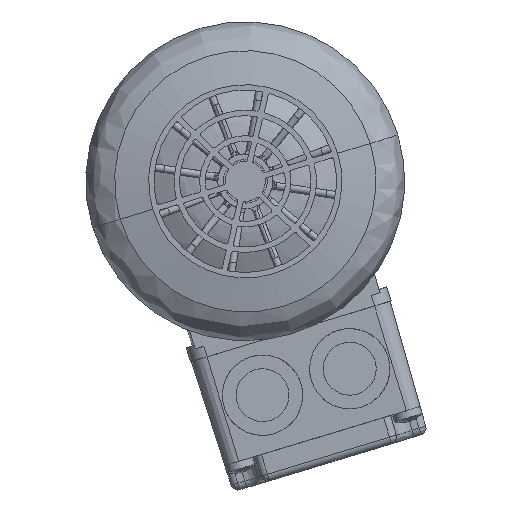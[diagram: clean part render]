
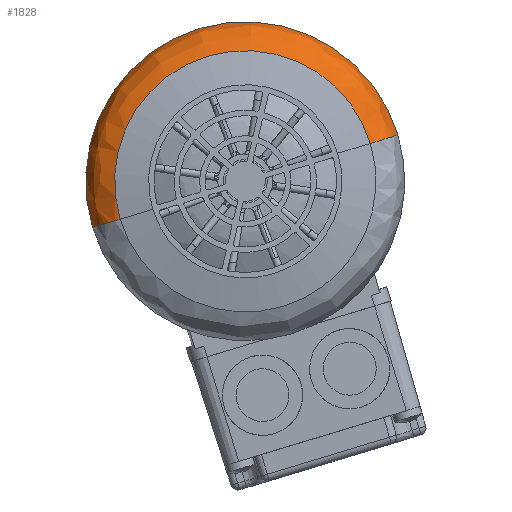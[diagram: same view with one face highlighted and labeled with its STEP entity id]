
A CAD part, left-side view. The second image highlights one B-rep face of the part: STEP entity #1828.
In plain terms, the highlighted free-form (B-spline) face has degree [3, 3] with [4, 4] control points.
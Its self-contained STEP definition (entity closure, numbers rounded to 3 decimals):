
#805 = DIRECTION ( 'NONE',  ( 0., 0., 1. ) ) ;
#1348 = DIRECTION ( 'NONE',  ( 0., 0., 1. ) ) ;
#1806 = EDGE_CURVE ( 'NONE', #85047, #12391, #55108, .T. ) ;
#1828 = ADVANCED_FACE ( 'NONE', ( #54540 ), #6331, .T. ) ;
#6331 =( BOUNDED_SURFACE ( )  B_SPLINE_SURFACE ( 3, 3, ( 
 ( #74127, #63991, #63702, #62856 ),
 ( #62255, #61968, #43122, #85817 ),
 ( #52713, #61383, #61113, #60531 ),
 ( #60238, #59966, #59678, #59564 ) ),
 .UNSPECIFIED., .F., .F., .F. ) 
 B_SPLINE_SURFACE_WITH_KNOTS ( ( 4, 4 ),
 ( 4, 4 ),
 ( 0., 1. ),
 ( 0., 1. ),
 .UNSPECIFIED. ) 
 GEOMETRIC_REPRESENTATION_ITEM ( )  RATIONAL_B_SPLINE_SURFACE ( (
 ( 1., 0.333, 0.333, 1.),
 ( 0.851, 0.284, 0.284, 0.851),
 ( 0.851, 0.284, 0.284, 0.851),
 ( 1., 0.333, 0.333, 1.) ) ) 
 REPRESENTATION_ITEM ( '' )  SURFACE ( )  );
#7912 = ORIENTED_EDGE ( 'NONE', *, *, #24219, .T. ) ;
#11491 = AXIS2_PLACEMENT_3D ( 'NONE', #66658, #66372, #66270 ) ;
#12391 = VERTEX_POINT ( 'NONE', #64770 ) ;
#13144 = AXIS2_PLACEMENT_3D ( 'NONE', #41442, #1348, #48125 ) ;
#21101 = CARTESIAN_POINT ( 'NONE',  ( -35.829, 0., -141.517 ) ) ;
#22622 = CIRCLE ( 'NONE', #80153, 43.75 ) ;
#24219 = EDGE_CURVE ( 'NONE', #83915, #80922, #66723, .T. ) ;
#24530 = ORIENTED_EDGE ( 'NONE', *, *, #1806, .F. ) ;
#37876 = ORIENTED_EDGE ( 'NONE', *, *, #84997, .T. ) ;
#40913 = CARTESIAN_POINT ( 'NONE',  ( 0., 0., -131.736 ) ) ;
#41442 = CARTESIAN_POINT ( 'NONE',  ( 0., 0., -141.517 ) ) ;
#43122 = CARTESIAN_POINT ( 'NONE',  ( 43.75, -87.5, -136.663 ) ) ;
#45235 = EDGE_LOOP ( 'NONE', ( #76960, #7912, #37876, #24530 ) ) ;
#47625 = DIRECTION ( 'NONE',  ( 1., 0., 0. ) ) ;
#48125 = DIRECTION ( 'NONE',  ( 1., 0., 0. ) ) ;
#49244 = CARTESIAN_POINT ( 'NONE',  ( 43.75, 0., -131.736 ) ) ;
#50175 = CARTESIAN_POINT ( 'NONE',  ( -43.75, 0., -131.736 ) ) ;
#52713 = CARTESIAN_POINT ( 'NONE',  ( -40.649, 0., -140.493 ) ) ;
#54540 = FACE_OUTER_BOUND ( 'NONE', #45235, .T. ) ;
#54628 = EDGE_CURVE ( 'NONE', #83915, #85047, #22622, .T. ) ;
#55108 = CIRCLE ( 'NONE', #11491, 10. ) ;
#56701 = DIRECTION ( 'NONE',  ( -1., 0., 0. ) ) ;
#56809 = DIRECTION ( 'NONE',  ( 0., -1., 0. ) ) ;
#56887 = CARTESIAN_POINT ( 'NONE',  ( -33.75, 0., -131.736 ) ) ;
#59564 = CARTESIAN_POINT ( 'NONE',  ( 35.829, 0., -141.517 ) ) ;
#59678 = CARTESIAN_POINT ( 'NONE',  ( 35.829, -71.658, -141.517 ) ) ;
#59966 = CARTESIAN_POINT ( 'NONE',  ( -35.829, -71.658, -141.517 ) ) ;
#60238 = CARTESIAN_POINT ( 'NONE',  ( -35.829, 0., -141.517 ) ) ;
#60531 = CARTESIAN_POINT ( 'NONE',  ( 40.649, 0., -140.493 ) ) ;
#61113 = CARTESIAN_POINT ( 'NONE',  ( 40.649, -81.298, -140.493 ) ) ;
#61383 = CARTESIAN_POINT ( 'NONE',  ( -40.649, -81.298, -140.493 ) ) ;
#61968 = CARTESIAN_POINT ( 'NONE',  ( -43.75, -87.5, -136.663 ) ) ;
#62255 = CARTESIAN_POINT ( 'NONE',  ( -43.75, 0., -136.663 ) ) ;
#62856 = CARTESIAN_POINT ( 'NONE',  ( 43.75, 0., -131.736 ) ) ;
#63702 = CARTESIAN_POINT ( 'NONE',  ( 43.75, -87.5, -131.736 ) ) ;
#63991 = CARTESIAN_POINT ( 'NONE',  ( -43.75, -87.5, -131.736 ) ) ;
#64770 = CARTESIAN_POINT ( 'NONE',  ( 35.829, 0., -141.517 ) ) ;
#65894 = CIRCLE ( 'NONE', #13144, 35.829 ) ;
#66270 = DIRECTION ( 'NONE',  ( 1., 0., 0. ) ) ;
#66372 = DIRECTION ( 'NONE',  ( 0., 1., 0. ) ) ;
#66658 = CARTESIAN_POINT ( 'NONE',  ( 33.75, 0., -131.736 ) ) ;
#66723 = CIRCLE ( 'NONE', #82129, 10. ) ;
#74127 = CARTESIAN_POINT ( 'NONE',  ( -43.75, 0., -131.736 ) ) ;
#76960 = ORIENTED_EDGE ( 'NONE', *, *, #54628, .F. ) ;
#80153 = AXIS2_PLACEMENT_3D ( 'NONE', #40913, #805, #47625 ) ;
#80922 = VERTEX_POINT ( 'NONE', #21101 ) ;
#82129 = AXIS2_PLACEMENT_3D ( 'NONE', #56887, #56809, #56701 ) ;
#83915 = VERTEX_POINT ( 'NONE', #50175 ) ;
#84997 = EDGE_CURVE ( 'NONE', #80922, #12391, #65894, .T. ) ;
#85047 = VERTEX_POINT ( 'NONE', #49244 ) ;
#85817 = CARTESIAN_POINT ( 'NONE',  ( 43.75, 0., -136.663 ) ) ;
